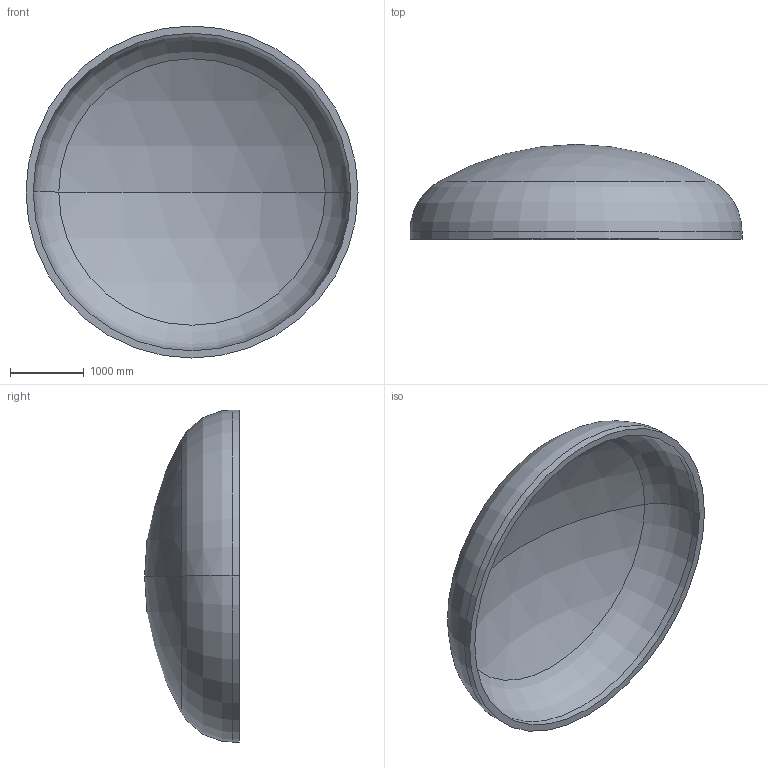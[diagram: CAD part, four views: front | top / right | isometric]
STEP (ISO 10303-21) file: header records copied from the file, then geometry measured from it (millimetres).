
FILE_DESCRIPTION (( 'STEP AP203' ), '1' );
FILE_NAME ('DIN 28013 Korbbogenform_-_Boden DIN 28013 - 4500 x 100 - I - s=98.step', '2016-07-01T23:50:31', ( '' ), ( '' ), 'SwSTEP 2.0', 'SolidWorks 2013', '' );
FILE_SCHEMA (( 'CONFIG_CONTROL_DESIGN' ));
Length unit declared in the file: millimetre
Products named in the file (1): DIN 28013 Korbbogenform_-_Boden DIN 28013 - 4500 x 100 - I - s=98
Bounding box: 4500 x 1284.8 x 4500 mm (x, y, z)
Volume: 2234466776.3 mm3; surface area: 46976731.7 mm2
Topology: 1 solids, 1 shells, 13 faces, 24 edges, 14 vertices
Faces by surface type: torus 4, cylinder 4, sphere 4, plane 1
Entity records: 407 total; most frequent: DIRECTION 72, CARTESIAN_POINT 52, ORIENTED_EDGE 48, AXIS2_PLACEMENT_3D 34, EDGE_CURVE 24, CIRCLE 20, EDGE_LOOP 14, VERTEX_POINT 14
